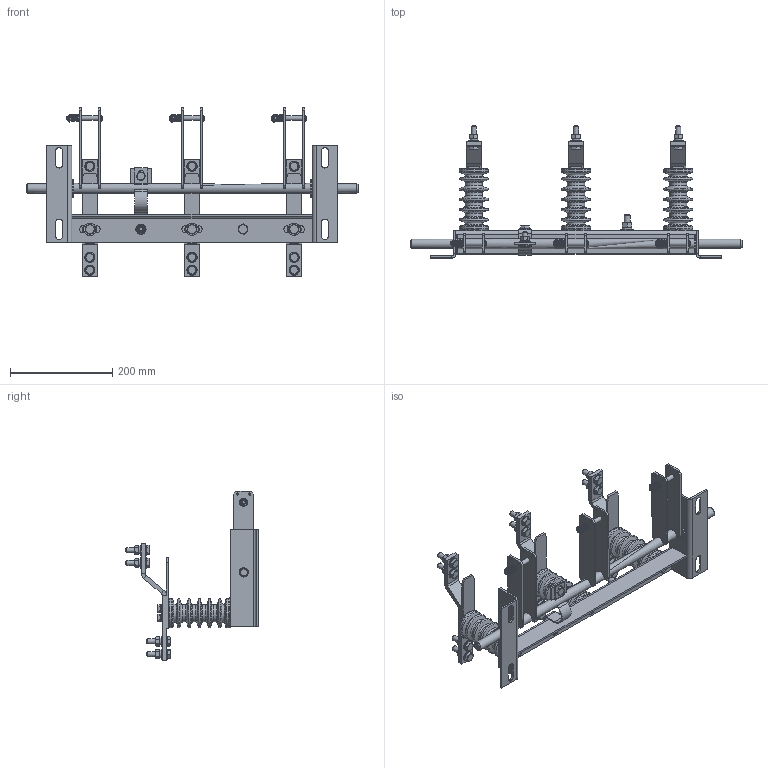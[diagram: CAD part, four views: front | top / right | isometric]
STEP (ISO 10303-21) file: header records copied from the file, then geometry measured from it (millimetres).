
FILE_DESCRIPTION (( 'STEP AP214' ), '1' );
FILE_NAME ('Çàçåìëèòåëü ÇÐ-10630-Ó3-ÊÝÀÇ.STEP', '2023-02-01T11:10:34', ( '' ), ( '' ), 'SwSTEP 2.0', 'SolidWorks 2018', '' );
FILE_SCHEMA (( 'AUTOMOTIVE_DESIGN' ));
Length unit declared in the file: millimetre
Products named in the file (1): Çàçåìëèòåëü ÇÐ-10630-Ó3-ÊÝÀÇ
Bounding box: 650 x 258.68 x 331.04 mm (x, y, z)
Volume: 1586429.2 mm3; surface area: 504200 mm2
Topology: 1 solids, 8 shells, 1190 faces, 2959 edges, 1911 vertices
Faces by surface type: plane 714, cylinder 283, cone 130, torus 57, bspline 6
Full cylindrical faces by diameter (mm): 4.2 x12, 8 x6, 8.799 x2, 8.852 x2, 8.964 x2, 10 x14, 10.8 x1, 11 x1, 12 x1, 12.35 x6, 13 x1, 16 x9, 17.1 x1, 18 x2, 19.639 x3, 20 x27, 24 x4, 34 x14, 54 x6, 57 x6
Entity records: 56062 total; most frequent: CARTESIAN_POINT 30295, ORIENTED_EDGE 5060, DIRECTION 5038, EDGE_CURVE 2530, AXIS2_PLACEMENT_3D 1944, VERTEX_POINT 1777, EDGE_LOOP 1671, FACE_OUTER_BOUND 1367
